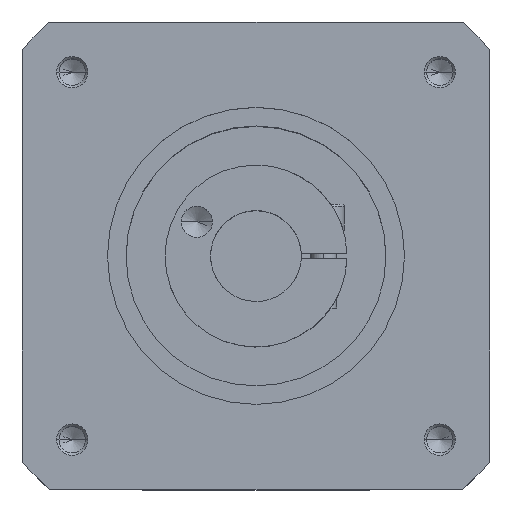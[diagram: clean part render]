
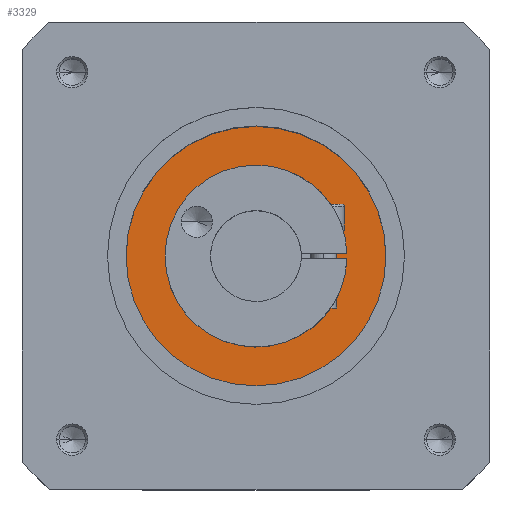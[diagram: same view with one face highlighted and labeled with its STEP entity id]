
A CAD part, top view. The second image highlights one B-rep face of the part: STEP entity #3329.
In plain terms, the highlighted planar face has unit normal (0, 0, 1).
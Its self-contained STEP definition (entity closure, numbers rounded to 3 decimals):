
#127 = CIRCLE ( 'NONE', #1856, 50. ) ;
#223 = CARTESIAN_POINT ( 'NONE',  ( 0., 0., 132.5 ) ) ;
#224 = AXIS2_PLACEMENT_3D ( 'NONE', #223, #1494, #1480 ) ;
#379 = ORIENTED_EDGE ( 'NONE', *, *, #2133, .F. ) ;
#563 = EDGE_CURVE ( 'NONE', #5056, #1703, #4491, .T. ) ;
#672 = DIRECTION ( 'NONE',  ( 0., 0., 1. ) ) ;
#951 = CARTESIAN_POINT ( 'NONE',  ( -27.5, 0., 132.5 ) ) ;
#963 = FACE_BOUND ( 'NONE', #3194, .T. ) ;
#1065 = AXIS2_PLACEMENT_3D ( 'NONE', #1507, #672, #3054 ) ;
#1093 = EDGE_CURVE ( 'NONE', #2268, #2242, #2540, .T. ) ;
#1205 = DIRECTION ( 'NONE',  ( 0., 0., 1. ) ) ;
#1244 = CARTESIAN_POINT ( 'NONE',  ( 0., 0., 132.5 ) ) ;
#1480 = DIRECTION ( 'NONE',  ( 1., 0., 0. ) ) ;
#1494 = DIRECTION ( 'NONE',  ( 0., 0., 1. ) ) ;
#1507 = CARTESIAN_POINT ( 'NONE',  ( 0., 0., 132.5 ) ) ;
#1678 = ORIENTED_EDGE ( 'NONE', *, *, #1093, .F. ) ;
#1689 = CARTESIAN_POINT ( 'NONE',  ( 50., 0., 132.5 ) ) ;
#1703 = VERTEX_POINT ( 'NONE', #951 ) ;
#1818 = PLANE ( 'NONE',  #224 ) ;
#1856 = AXIS2_PLACEMENT_3D ( 'NONE', #3448, #3056, #3479 ) ;
#2133 = EDGE_CURVE ( 'NONE', #1703, #5056, #4543, .T. ) ;
#2242 = VERTEX_POINT ( 'NONE', #4107 ) ;
#2268 = VERTEX_POINT ( 'NONE', #1689 ) ;
#2454 = CARTESIAN_POINT ( 'NONE',  ( 0., 0., 132.5 ) ) ;
#2456 = DIRECTION ( 'NONE',  ( 1., 0., 0. ) ) ;
#2540 = CIRCLE ( 'NONE', #3765, 50. ) ;
#2631 = AXIS2_PLACEMENT_3D ( 'NONE', #2454, #1205, #4448 ) ;
#3054 = DIRECTION ( 'NONE',  ( 1., 0., 0. ) ) ;
#3056 = DIRECTION ( 'NONE',  ( 0., 0., -1. ) ) ;
#3109 = ORIENTED_EDGE ( 'NONE', *, *, #3239, .F. ) ;
#3194 = EDGE_LOOP ( 'NONE', ( #379, #3400 ) ) ;
#3239 = EDGE_CURVE ( 'NONE', #2242, #2268, #127, .T. ) ;
#3329 = ADVANCED_FACE ( 'NONE', ( #963, #4035 ), #1818, .T. ) ;
#3400 = ORIENTED_EDGE ( 'NONE', *, *, #563, .F. ) ;
#3448 = CARTESIAN_POINT ( 'NONE',  ( 0., 0., 132.5 ) ) ;
#3479 = DIRECTION ( 'NONE',  ( 1., 0., 0. ) ) ;
#3691 = CARTESIAN_POINT ( 'NONE',  ( 27.5, 0., 132.5 ) ) ;
#3765 = AXIS2_PLACEMENT_3D ( 'NONE', #1244, #4792, #2456 ) ;
#3921 = EDGE_LOOP ( 'NONE', ( #3109, #1678 ) ) ;
#4035 = FACE_OUTER_BOUND ( 'NONE', #3921, .T. ) ;
#4107 = CARTESIAN_POINT ( 'NONE',  ( -50., 0., 132.5 ) ) ;
#4448 = DIRECTION ( 'NONE',  ( 1., 0., 0. ) ) ;
#4491 = CIRCLE ( 'NONE', #1065, 27.5 ) ;
#4543 = CIRCLE ( 'NONE', #2631, 27.5 ) ;
#4792 = DIRECTION ( 'NONE',  ( 0., 0., -1. ) ) ;
#5056 = VERTEX_POINT ( 'NONE', #3691 ) ;
